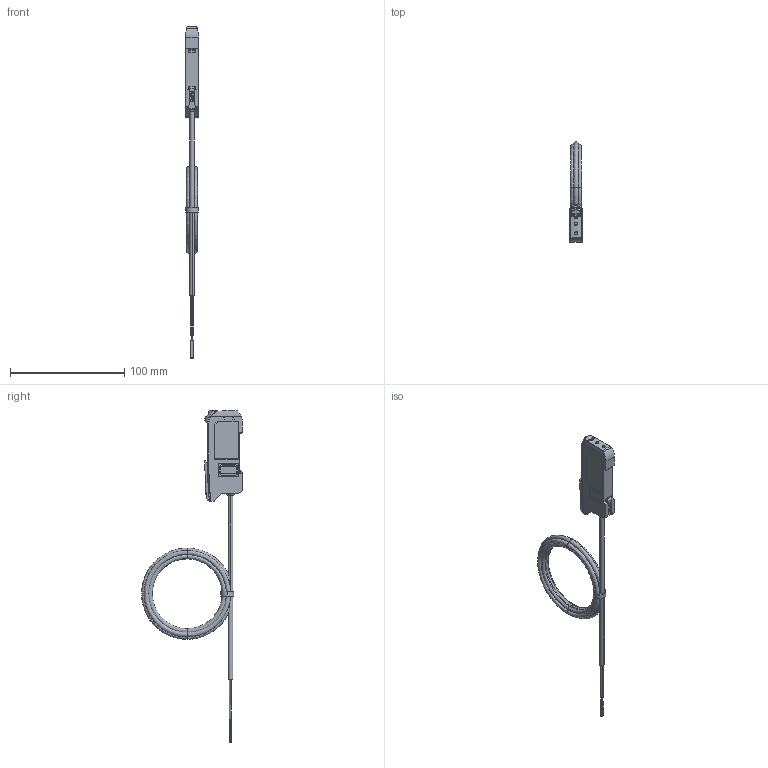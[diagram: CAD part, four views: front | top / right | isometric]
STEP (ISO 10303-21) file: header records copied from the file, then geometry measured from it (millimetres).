
FILE_DESCRIPTION (( 'STEP AP214' ), '1' );
FILE_NAME ('D4RF-TDM,-TM_220425.STEP', '2022-04-25T10:58:59', ( '' ), ( '' ), 'SwSTEP 2.0', 'SolidWorks 2021', '' );
FILE_SCHEMA (( 'AUTOMOTIVE_DESIGN' ));
Length unit declared in the file: millimetre
Products named in the file (3): 220425376; D4RF-TDM,-TM_220425; 220425361
Assembly tree (2 placements, depth 2):
  D4RF-TDM,-TM_220425
    220425376
    220425361
Bounding box: 11 x 88.4 x 291.15 mm (x, y, z)
Volume: 38548.9 mm3; surface area: 18884.5 mm2
Topology: 2 solids, 14 shells, 811 faces, 2095 edges, 1333 vertices
Faces by surface type: plane 382, cylinder 208, bspline 175, cone 29, torus 13, sphere 4
Entity records: 31994 total; most frequent: CARTESIAN_POINT 12868, ORIENTED_EDGE 4146, DIRECTION 3105, EDGE_CURVE 2073, VERTEX_POINT 1329, VECTOR 1083, LINE 1083, AXIS2_PLACEMENT_3D 1011
